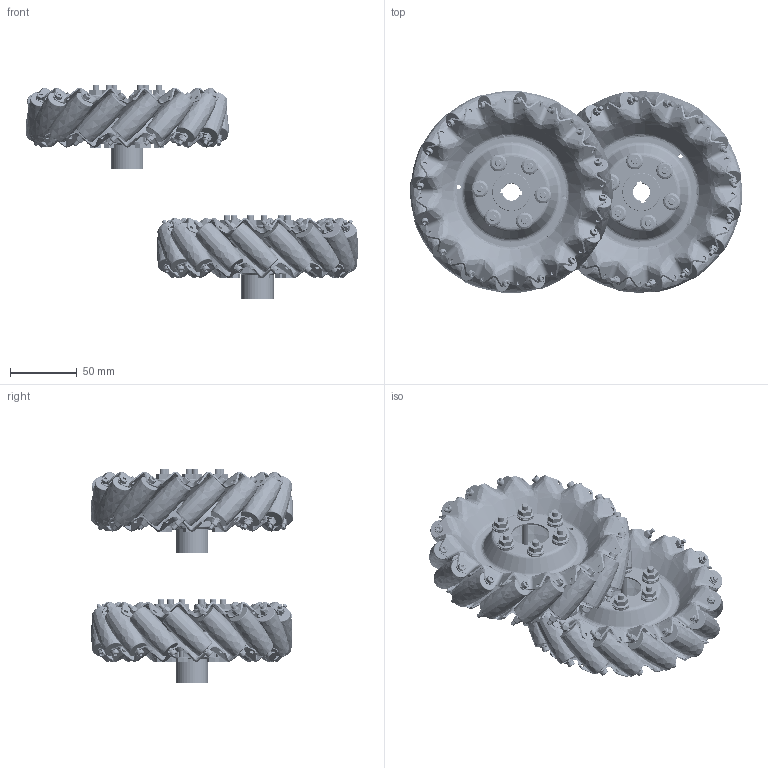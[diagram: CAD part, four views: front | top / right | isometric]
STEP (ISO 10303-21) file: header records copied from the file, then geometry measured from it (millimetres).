
FILE_DESCRIPTION(/* description */ (''),/* implementation_level */ '2;1');
FILE_NAME(/* name */ 'C:\Users\TODD D MILLER\Documents\Mecanum\Mecanum wheels, 6in.stp',/* time_stamp */ '2015-02-27T09:51:58-05:00',/* author */ ('TODD D MILLER'),/* organization */ (''),/* preprocessor_version */ 'ST-DEVELOPER v15.6',/* originating_system */ 'Autodesk Inventor 2015',/* authorisation */ '');
FILE_SCHEMA (('AUTOMOTIVE_DESIGN { 1 0 10303 214 3 1 1 }'));
Products named in the file (14): 1_6; M - 3 x 0.5 x 50 SHCS_M - 3 x 0.5 x 50 SHCS; M3-Nylock-Nut_2; 6 mecanum plate 3; 6-mecanum-3-Left; 500EX-Key-Hub; ANSI B18.22.1 - No. 10 - Type A; ANSI B18.6.3 - 10-32 UNF x 1.75(6); IFI - I0.19 - 32(1); Bolted Connection1; 6-mecanum-3-Left with HUB; 6-mecanum-3-Right; 6-mecanum-3-Right with HUB; Mecanum wheels, 6in
Assembly tree (132 placements, depth 4):
  Mecanum wheels, 6in
    6-mecanum-3-Left with HUB
      6-mecanum-3-Left
        1_6  x16
        M - 3 x 0.5 x 50 SHCS_M - 3 x 0.5 x 50 SHCS  x16
        M3-Nylock-Nut_2  x16
        6 mecanum plate 3  x2
      500EX-Key-Hub
      Bolted Connection1
        ANSI B18.22.1 - No. 10 - Type A  x12
        ANSI B18.6.3 - 10-32 UNF x 1.75(6)  x6
        IFI - I0.19 - 32(1)  x6
    6-mecanum-3-Right with HUB
      6-mecanum-3-Right
        M3-Nylock-Nut_2  x16
        M - 3 x 0.5 x 50 SHCS_M - 3 x 0.5 x 50 SHCS  x16
        1_6  x16
        6 mecanum plate 3  x2
      500EX-Key-Hub
      Bolted Connection1
        ANSI B18.22.1 - No. 10 - Type A  x12
        ANSI B18.6.3 - 10-32 UNF x 1.75(6)  x6
        IFI - I0.19 - 32(1)  x6
Bounding box: 249.06 x 152.01 x 160.86 mm (x, y, z)
Volume: 417495.7 mm3; surface area: 310547.8 mm2
Topology: 150 solids, 150 shells, 3900 faces, 9380 edges, 5726 vertices
Faces by surface type: plane 1410, cylinder 942, bspline 928, cone 448, torus 172
Full cylindrical faces by diameter (mm): 3 x64, 3.175 x136, 3.962 x12, 4.762 x32, 4.826 x36, 5.2 x32, 5.5 x32, 5.563 x24, 12.7 x24, 24.333 x2, 28.575 x8
Entity records: 51455 total; most frequent: CARTESIAN_POINT 36428, ORIENTED_EDGE 3114, DIRECTION 2854, EDGE_CURVE 1557, AXIS2_PLACEMENT_3D 1283, VERTEX_POINT 1008, EDGE_LOOP 823, FACE_OUTER_BOUND 648
